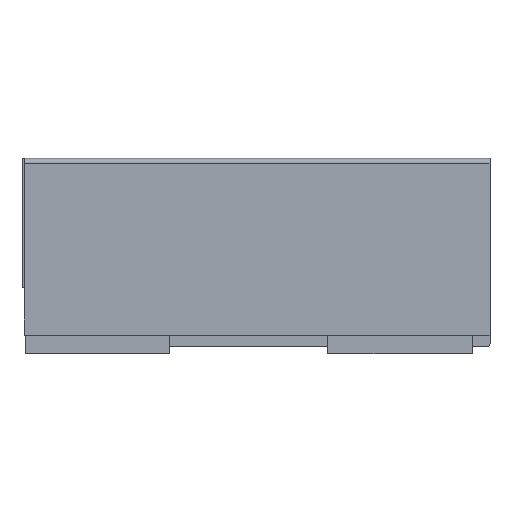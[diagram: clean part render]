
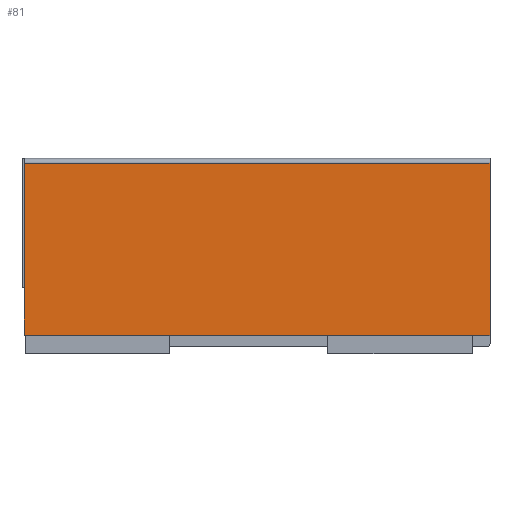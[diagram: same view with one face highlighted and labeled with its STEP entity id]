
A CAD part, left-side view. The second image highlights one B-rep face of the part: STEP entity #81.
In plain terms, the highlighted planar face has unit normal (-1, 0, 0).
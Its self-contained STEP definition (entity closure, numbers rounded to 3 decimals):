
#81 = ADVANCED_FACE ( 'NONE', ( #846 ), #2909, .F. ) ;
#255 = VECTOR ( 'NONE', #1100, 1000. ) ;
#256 = LINE ( 'NONE', #1099, #255 ) ;
#488 = VECTOR ( 'NONE', #3016, 1000. ) ;
#510 = LINE ( 'NONE', #3020, #488 ) ;
#512 = VECTOR ( 'NONE', #3047, 1000. ) ;
#513 = LINE ( 'NONE', #3048, #512 ) ;
#758 = VECTOR ( 'NONE', #3458, 1000. ) ;
#763 = LINE ( 'NONE', #3517, #758 ) ;
#846 = FACE_OUTER_BOUND ( 'NONE', #1508, .T. ) ;
#1099 = CARTESIAN_POINT ( 'NONE',  ( -4.1, 290., 78.498 ) ) ;
#1100 = DIRECTION ( 'NONE',  ( 0., -1., 0. ) ) ;
#1256 = ORIENTED_EDGE ( 'NONE', *, *, #2334, .F. ) ;
#1257 = ORIENTED_EDGE ( 'NONE', *, *, #2745, .F. ) ;
#1258 = ORIENTED_EDGE ( 'NONE', *, *, #2533, .T. ) ;
#1259 = ORIENTED_EDGE ( 'NONE', *, *, #2552, .T. ) ;
#1508 = EDGE_LOOP ( 'NONE', ( #1256, #1257, #1258, #1259 ) ) ;
#2166 = VERTEX_POINT ( 'NONE', #3729 ) ;
#2177 = VERTEX_POINT ( 'NONE', #3713 ) ;
#2183 = VERTEX_POINT ( 'NONE', #3706 ) ;
#2259 = VERTEX_POINT ( 'NONE', #3601 ) ;
#2334 = EDGE_CURVE ( 'NONE', #2183, #2166, #763, .T. ) ;
#2396 = AXIS2_PLACEMENT_3D ( 'NONE', #2910, #2907, #2906 ) ;
#2533 = EDGE_CURVE ( 'NONE', #2177, #2259, #513, .T. ) ;
#2552 = EDGE_CURVE ( 'NONE', #2259, #2166, #510, .T. ) ;
#2745 = EDGE_CURVE ( 'NONE', #2177, #2183, #256, .T. ) ;
#2906 = DIRECTION ( 'NONE',  ( 0., 0., -1. ) ) ;
#2907 = DIRECTION ( 'NONE',  ( 1., 0., 0. ) ) ;
#2909 = PLANE ( 'NONE',  #2396 ) ;
#2910 = CARTESIAN_POINT ( 'NONE',  ( -4.1, 290., -28.503 ) ) ;
#3016 = DIRECTION ( 'NONE',  ( 0., -1., 0. ) ) ;
#3020 = CARTESIAN_POINT ( 'NONE',  ( -4.1, 290., -28.503 ) ) ;
#3047 = DIRECTION ( 'NONE',  ( 0., 0., -1. ) ) ;
#3048 = CARTESIAN_POINT ( 'NONE',  ( -4.1, 290., 64.411 ) ) ;
#3458 = DIRECTION ( 'NONE',  ( 0., 0., -1. ) ) ;
#3517 = CARTESIAN_POINT ( 'NONE',  ( -4.1, 0., -28.503 ) ) ;
#3601 = CARTESIAN_POINT ( 'NONE',  ( -4.1, 290., -28.503 ) ) ;
#3706 = CARTESIAN_POINT ( 'NONE',  ( -4.1, 0., 78.498 ) ) ;
#3713 = CARTESIAN_POINT ( 'NONE',  ( -4.1, 290., 78.498 ) ) ;
#3729 = CARTESIAN_POINT ( 'NONE',  ( -4.1, 0., -28.503 ) ) ;
